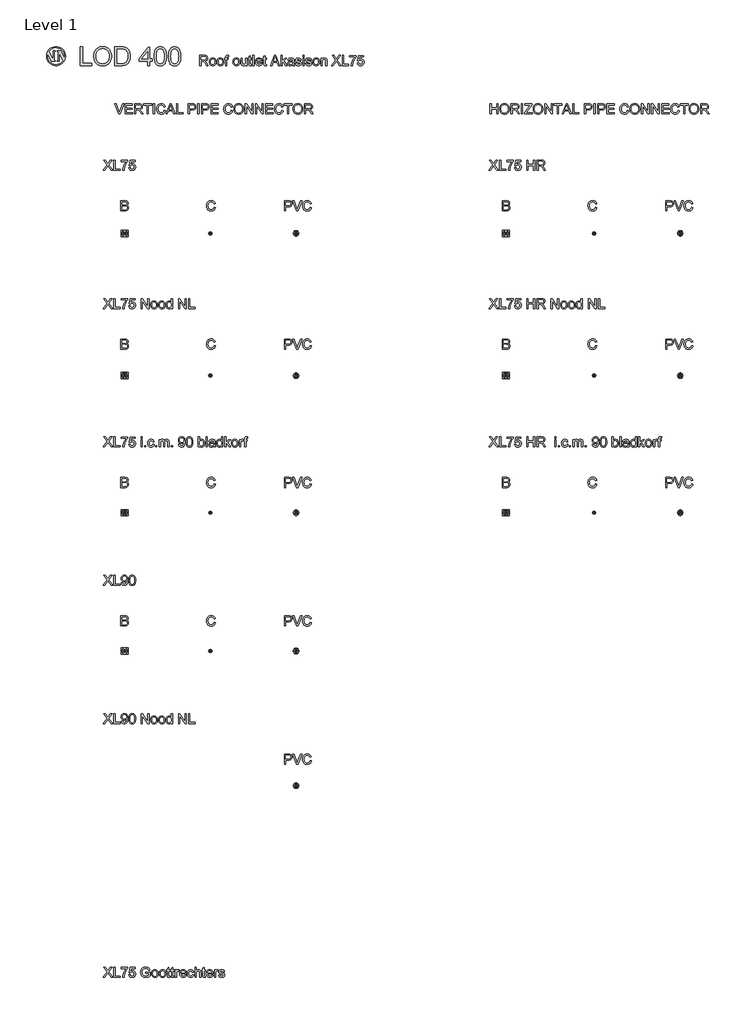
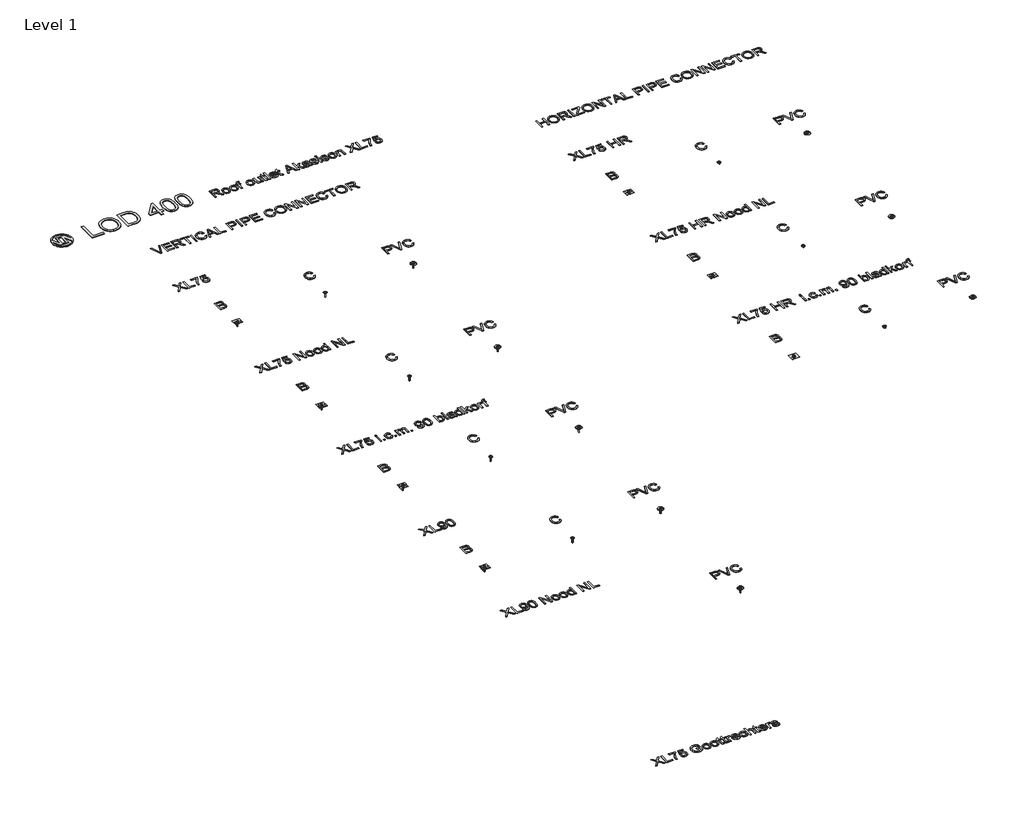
# One storey, incomplete: 52 sanitary terminals, 34 proxies.
"""IFC4 building model written with IfcOpenShell, lengths in millimetres."""

from ifc_helpers import new_model, si_unit, origin, place, context, project, spatial, transform, mapped, element, save
from components import proxy_000_00_isr_lod_packages_lod200_d244b15a, proxy_000_00_isr_lod_packages_1_lod200_2dca5619, proxy_000_00_isr_lod_packages_1_lod200_c8bb9399, proxy_000_00_isr_lod_packages_1_lod200_1a16044f, proxy_000_00_isr_lod_packages_1_lod200_af263f32, proxy_000_00_isr_lod_packages_1_lod200_d827b4a2, proxy_000_00_isr_lod_packages_1_lod200_f037c82a, proxy_000_00_isr_lod_packages_1_lod200_a5e92c51, proxy_000_00_isr_lod_packages_1_lod200_caf191f5, proxy_000_00_isr_lod_packages_1_lod200_7e7a189d, proxy_000_00_isr_lod_packages_1_lod200_f1342aa7, proxy_000_00_isr_lod_packages_1_lod200_6f6d0563, proxy_000_00_isr_lod_packages_1_lod200_9d03e05b, proxy_000_00_isr_lod_packages_1_lod200_6910cb7c, proxy_000_00_isr_lod_packages_1_lod200_dfd39657, std_nested_ee38ed3e, std_nested_2a588846, std_nested_2f69c98b, std_nested_e9431c89, std_nested_5b9eb732, std_nested_7d8345e2, std_nested_79037b13

model = new_model("IFC4")

# Units and contexts
model_context = context("Model", 3, world=origin())
ifc_project = project(units=[si_unit("LENGTHUNIT", "METRE", prefix="MILLI")], contexts=[model_context])

# Site, building, storey
site = spatial("IfcSite", under=ifc_project)
building = spatial("IfcBuilding", under=site)
storey = spatial("IfcBuildingStorey", under=building, Name="Level 1", Elevation=0.0)

# Proxies
placement = place(None, origin())
proxy_000_00_isr_lod_packages_lod200_shape = proxy_000_00_isr_lod_packages_lod200_d244b15a(model_context)
element("IfcBuildingElementProxy", 1, Name="000_00_ISR_lod_packages : LOD200", ObjectType="000_00_ISR_lod_packages : LOD200", at=placement, inside=storey, context=model_context, shape_type="MappedRepresentation", body=[
    mapped(proxy_000_00_isr_lod_packages_lod200_shape, transform((-42932.9644039, 94533.7464485, 0.0), x_axis=(1.0000000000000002, 0.0, 0.0), y_axis=(0.0, 1.0000000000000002, 0.0), z_axis=(0.0, 0.0, 1.0))),
])
proxy_000_00_isr_lod_packages_1_lod200_shape = proxy_000_00_isr_lod_packages_1_lod200_2dca5619(model_context)
element("IfcBuildingElementProxy", 2, Name="000_00_ISR_lod_packages_1 : LOD200", ObjectType="000_00_ISR_lod_packages_1 : LOD200", at=placement, inside=storey, context=model_context, shape_type="MappedRepresentation", body=[
    mapped(proxy_000_00_isr_lod_packages_1_lod200_shape, transform((-37555.6817777, 90714.9157229, 0.0), x_axis=(1.0000000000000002, 0.0, 0.0), y_axis=(0.0, 1.0000000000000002, 0.0), z_axis=(0.0, 0.0, 1.0))),
])
proxy_000_00_isr_lod_packages_1_lod200_2_shape = proxy_000_00_isr_lod_packages_1_lod200_c8bb9399(model_context)
element("IfcBuildingElementProxy", 3, Name="000_00_ISR_lod_packages_1 : LOD200", ObjectType="000_00_ISR_lod_packages_1 : LOD200", at=placement, inside=storey, context=model_context, shape_type="MappedRepresentation", body=[
    mapped(proxy_000_00_isr_lod_packages_1_lod200_2_shape, transform((-8022.3076072, 90714.9157229, 0.0), x_axis=(1.0000000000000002, 0.0, 0.0), y_axis=(0.0, 1.0000000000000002, 0.0), z_axis=(0.0, 0.0, 1.0))),
])
proxy_000_00_isr_lod_packages_1_lod200_3_shape = proxy_000_00_isr_lod_packages_1_lod200_1a16044f(model_context)
element("IfcBuildingElementProxy", 4, Name="000_00_ISR_lod_packages_1 : LOD200", ObjectType="000_00_ISR_lod_packages_1 : LOD200", at=placement, inside=storey, context=model_context, shape_type="MappedRepresentation", body=[
    mapped(proxy_000_00_isr_lod_packages_1_lod200_3_shape, transform((-38455.6817777, 86275.2736855, 0.0), x_axis=(1.0000000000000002, 0.0, 0.0), y_axis=(0.0, 1.0000000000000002, 0.0), z_axis=(0.0, 0.0, 1.0))),
])
proxy_000_00_isr_lod_packages_1_lod200_4_shape = proxy_000_00_isr_lod_packages_1_lod200_af263f32(model_context)
element("IfcBuildingElementProxy", 5, Name="000_00_ISR_lod_packages_1 : LOD200", ObjectType="000_00_ISR_lod_packages_1 : LOD200", at=placement, inside=storey, context=model_context, shape_type="MappedRepresentation", body=[
    mapped(proxy_000_00_isr_lod_packages_1_lod200_4_shape, transform((-8022.3076072, 86275.2736855, 0.0), x_axis=(1.0000000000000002, 0.0, 0.0), y_axis=(0.0, 1.0000000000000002, 0.0), z_axis=(0.0, 0.0, 1.0))),
])
proxy_000_00_isr_lod_packages_1_lod200_5_shape = proxy_000_00_isr_lod_packages_1_lod200_d827b4a2(model_context)
element("IfcBuildingElementProxy", 6, Name="000_00_ISR_lod_packages_1 : LOD200", ObjectType="000_00_ISR_lod_packages_1 : LOD200", at=placement, inside=storey, context=model_context, shape_type="MappedRepresentation", body=[
    mapped(proxy_000_00_isr_lod_packages_1_lod200_5_shape, transform((-37155.6817777, 83075.2736855, 0.0), x_axis=(1.0000000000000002, 0.0, 0.0), y_axis=(0.0, 1.0000000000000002, 0.0), z_axis=(0.0, 0.0, 1.0))),
])
element("IfcBuildingElementProxy", 7, Name="000_00_ISR_lod_packages_1 : LOD200", ObjectType="000_00_ISR_lod_packages_1 : LOD200", at=placement, inside=storey, context=model_context, shape_type="MappedRepresentation", body=[
    mapped(proxy_000_00_isr_lod_packages_1_lod200_5_shape, transform((-7055.6817777, 83075.2736855, 0.0), x_axis=(1.0000000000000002, 0.0, 0.0), y_axis=(0.0, 1.0000000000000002, 0.0), z_axis=(0.0, 0.0, 1.0))),
])
element("IfcBuildingElementProxy", 8, Name="000_00_ISR_lod_packages_1 : LOD200", ObjectType="000_00_ISR_lod_packages_1 : LOD200", at=placement, inside=storey, context=model_context, shape_type="MappedRepresentation", body=[
    mapped(proxy_000_00_isr_lod_packages_1_lod200_5_shape, transform((-37155.6817777, 72165.8106293, 0.0), x_axis=(1.0000000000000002, 0.0, 0.0), y_axis=(0.0, 1.0000000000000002, 0.0), z_axis=(0.0, 0.0, 1.0))),
])
element("IfcBuildingElementProxy", 9, Name="000_00_ISR_lod_packages_1 : LOD200", ObjectType="000_00_ISR_lod_packages_1 : LOD200", at=placement, inside=storey, context=model_context, shape_type="MappedRepresentation", body=[
    mapped(proxy_000_00_isr_lod_packages_1_lod200_5_shape, transform((-7055.6817777, 72165.8106293, 0.0), x_axis=(1.0000000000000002, 0.0, 0.0), y_axis=(0.0, 1.0000000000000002, 0.0), z_axis=(0.0, 0.0, 1.0))),
])
element("IfcBuildingElementProxy", 10, Name="000_00_ISR_lod_packages_1 : LOD200", ObjectType="000_00_ISR_lod_packages_1 : LOD200", at=placement, inside=storey, context=model_context, shape_type="MappedRepresentation", body=[
    mapped(proxy_000_00_isr_lod_packages_1_lod200_5_shape, transform((-37155.6817777, 61256.3475731, 0.0), x_axis=(1.0000000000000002, 0.0, 0.0), y_axis=(0.0, 1.0000000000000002, 0.0), z_axis=(0.0, 0.0, 1.0))),
])
element("IfcBuildingElementProxy", 11, Name="000_00_ISR_lod_packages_1 : LOD200", ObjectType="000_00_ISR_lod_packages_1 : LOD200", at=placement, inside=storey, context=model_context, shape_type="MappedRepresentation", body=[
    mapped(proxy_000_00_isr_lod_packages_1_lod200_5_shape, transform((-7055.6817777, 61256.3475731, 0.0), x_axis=(1.0000000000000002, 0.0, 0.0), y_axis=(0.0, 1.0000000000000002, 0.0), z_axis=(0.0, 0.0, 1.0))),
])
element("IfcBuildingElementProxy", 12, Name="000_00_ISR_lod_packages_1 : LOD200", ObjectType="000_00_ISR_lod_packages_1 : LOD200", at=placement, inside=storey, context=model_context, shape_type="MappedRepresentation", body=[
    mapped(proxy_000_00_isr_lod_packages_1_lod200_5_shape, transform((-37155.6817777, 50346.8845169, 0.0), x_axis=(1.0000000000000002, 0.0, 0.0), y_axis=(0.0, 1.0000000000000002, 0.0), z_axis=(0.0, 0.0, 1.0))),
])
proxy_000_00_isr_lod_packages_1_lod200_6_shape = proxy_000_00_isr_lod_packages_1_lod200_f037c82a(model_context)
element("IfcBuildingElementProxy", 13, Name="000_00_ISR_lod_packages_1 : LOD200", ObjectType="000_00_ISR_lod_packages_1 : LOD200", at=placement, inside=storey, context=model_context, shape_type="MappedRepresentation", body=[
    mapped(proxy_000_00_isr_lod_packages_1_lod200_6_shape, transform((-24255.6817777, 83075.2736855, 0.0), x_axis=(1.0000000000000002, 0.0, 0.0), y_axis=(0.0, 1.0000000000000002, 0.0), z_axis=(0.0, 0.0, 1.0))),
])
element("IfcBuildingElementProxy", 14, Name="000_00_ISR_lod_packages_1 : LOD200", ObjectType="000_00_ISR_lod_packages_1 : LOD200", at=placement, inside=storey, context=model_context, shape_type="MappedRepresentation", body=[
    mapped(proxy_000_00_isr_lod_packages_1_lod200_6_shape, transform((5844.3182223, 83075.2736855, 0.0), x_axis=(1.0000000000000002, 0.0, 0.0), y_axis=(0.0, 1.0000000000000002, 0.0), z_axis=(0.0, 0.0, 1.0))),
])
element("IfcBuildingElementProxy", 15, Name="000_00_ISR_lod_packages_1 : LOD200", ObjectType="000_00_ISR_lod_packages_1 : LOD200", at=placement, inside=storey, context=model_context, shape_type="MappedRepresentation", body=[
    mapped(proxy_000_00_isr_lod_packages_1_lod200_6_shape, transform((-24255.6817777, 72165.8106293, 0.0), x_axis=(1.0000000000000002, 0.0, 0.0), y_axis=(0.0, 1.0000000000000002, 0.0), z_axis=(0.0, 0.0, 1.0))),
])
element("IfcBuildingElementProxy", 16, Name="000_00_ISR_lod_packages_1 : LOD200", ObjectType="000_00_ISR_lod_packages_1 : LOD200", at=placement, inside=storey, context=model_context, shape_type="MappedRepresentation", body=[
    mapped(proxy_000_00_isr_lod_packages_1_lod200_6_shape, transform((5844.3182223, 72165.8106293, 0.0), x_axis=(1.0000000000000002, 0.0, 0.0), y_axis=(0.0, 1.0000000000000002, 0.0), z_axis=(0.0, 0.0, 1.0))),
])
element("IfcBuildingElementProxy", 17, Name="000_00_ISR_lod_packages_1 : LOD200", ObjectType="000_00_ISR_lod_packages_1 : LOD200", at=placement, inside=storey, context=model_context, shape_type="MappedRepresentation", body=[
    mapped(proxy_000_00_isr_lod_packages_1_lod200_6_shape, transform((-24255.6817777, 61256.3475731, 0.0), x_axis=(1.0000000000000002, 0.0, 0.0), y_axis=(0.0, 1.0000000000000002, 0.0), z_axis=(0.0, 0.0, 1.0))),
])
element("IfcBuildingElementProxy", 18, Name="000_00_ISR_lod_packages_1 : LOD200", ObjectType="000_00_ISR_lod_packages_1 : LOD200", at=placement, inside=storey, context=model_context, shape_type="MappedRepresentation", body=[
    mapped(proxy_000_00_isr_lod_packages_1_lod200_6_shape, transform((5844.3182223, 61256.3475731, 0.0), x_axis=(1.0000000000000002, 0.0, 0.0), y_axis=(0.0, 1.0000000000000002, 0.0), z_axis=(0.0, 0.0, 1.0))),
])
element("IfcBuildingElementProxy", 19, Name="000_00_ISR_lod_packages_1 : LOD200", ObjectType="000_00_ISR_lod_packages_1 : LOD200", at=placement, inside=storey, context=model_context, shape_type="MappedRepresentation", body=[
    mapped(proxy_000_00_isr_lod_packages_1_lod200_6_shape, transform((-24255.6817777, 50346.8845169, 0.0), x_axis=(1.0000000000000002, 0.0, 0.0), y_axis=(0.0, 1.0000000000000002, 0.0), z_axis=(0.0, 0.0, 1.0))),
])
element("IfcBuildingElementProxy", 20, Name="000_00_ISR_lod_packages_1 : LOD200", ObjectType="000_00_ISR_lod_packages_1 : LOD200", at=placement, inside=storey, context=model_context, shape_type="MappedRepresentation", body=[
    mapped(proxy_000_00_isr_lod_packages_1_lod200_6_shape, transform((-24255.6817777, 39437.4214606, 0.0), x_axis=(1.0000000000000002, 0.0, 0.0), y_axis=(0.0, 1.0000000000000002, 0.0), z_axis=(0.0, 0.0, 1.0))),
])
proxy_000_00_isr_lod_packages_1_lod200_7_shape = proxy_000_00_isr_lod_packages_1_lod200_a5e92c51(model_context)
element("IfcBuildingElementProxy", 21, Name="000_00_ISR_lod_packages_1 : LOD200", ObjectType="000_00_ISR_lod_packages_1 : LOD200", at=placement, inside=storey, context=model_context, shape_type="MappedRepresentation", body=[
    mapped(proxy_000_00_isr_lod_packages_1_lod200_7_shape, transform((-30355.6817777, 83075.2736855, 0.0), x_axis=(1.0000000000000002, 0.0, 0.0), y_axis=(0.0, 1.0000000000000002, 0.0), z_axis=(0.0, 0.0, 1.0))),
])
element("IfcBuildingElementProxy", 22, Name="000_00_ISR_lod_packages_1 : LOD200", ObjectType="000_00_ISR_lod_packages_1 : LOD200", at=placement, inside=storey, context=model_context, shape_type="MappedRepresentation", body=[
    mapped(proxy_000_00_isr_lod_packages_1_lod200_7_shape, transform((-255.6817777, 83075.2736855, 0.0), x_axis=(1.0000000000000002, 0.0, 0.0), y_axis=(0.0, 1.0000000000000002, 0.0), z_axis=(0.0, 0.0, 1.0))),
])
element("IfcBuildingElementProxy", 23, Name="000_00_ISR_lod_packages_1 : LOD200", ObjectType="000_00_ISR_lod_packages_1 : LOD200", at=placement, inside=storey, context=model_context, shape_type="MappedRepresentation", body=[
    mapped(proxy_000_00_isr_lod_packages_1_lod200_7_shape, transform((-30355.6817777, 72165.8106293, 0.0), x_axis=(1.0000000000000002, 0.0, 0.0), y_axis=(0.0, 1.0000000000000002, 0.0), z_axis=(0.0, 0.0, 1.0))),
])
element("IfcBuildingElementProxy", 24, Name="000_00_ISR_lod_packages_1 : LOD200", ObjectType="000_00_ISR_lod_packages_1 : LOD200", at=placement, inside=storey, context=model_context, shape_type="MappedRepresentation", body=[
    mapped(proxy_000_00_isr_lod_packages_1_lod200_7_shape, transform((-255.6817777, 72165.8106293, 0.0), x_axis=(1.0000000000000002, 0.0, 0.0), y_axis=(0.0, 1.0000000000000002, 0.0), z_axis=(0.0, 0.0, 1.0))),
])
element("IfcBuildingElementProxy", 25, Name="000_00_ISR_lod_packages_1 : LOD200", ObjectType="000_00_ISR_lod_packages_1 : LOD200", at=placement, inside=storey, context=model_context, shape_type="MappedRepresentation", body=[
    mapped(proxy_000_00_isr_lod_packages_1_lod200_7_shape, transform((-30355.6817777, 61256.3475731, 0.0), x_axis=(1.0000000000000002, 0.0, 0.0), y_axis=(0.0, 1.0000000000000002, 0.0), z_axis=(0.0, 0.0, 1.0))),
])
element("IfcBuildingElementProxy", 26, Name="000_00_ISR_lod_packages_1 : LOD200", ObjectType="000_00_ISR_lod_packages_1 : LOD200", at=placement, inside=storey, context=model_context, shape_type="MappedRepresentation", body=[
    mapped(proxy_000_00_isr_lod_packages_1_lod200_7_shape, transform((-255.6817777, 61256.3475731, 0.0), x_axis=(1.0000000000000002, 0.0, 0.0), y_axis=(0.0, 1.0000000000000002, 0.0), z_axis=(0.0, 0.0, 1.0))),
])
element("IfcBuildingElementProxy", 27, Name="000_00_ISR_lod_packages_1 : LOD200", ObjectType="000_00_ISR_lod_packages_1 : LOD200", at=placement, inside=storey, context=model_context, shape_type="MappedRepresentation", body=[
    mapped(proxy_000_00_isr_lod_packages_1_lod200_7_shape, transform((-30355.6817777, 50346.8845169, 0.0), x_axis=(1.0000000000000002, 0.0, 0.0), y_axis=(0.0, 1.0000000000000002, 0.0), z_axis=(0.0, 0.0, 1.0))),
])
proxy_000_00_isr_lod_packages_1_lod200_8_shape = proxy_000_00_isr_lod_packages_1_lod200_caf191f5(model_context)
element("IfcBuildingElementProxy", 28, Name="000_00_ISR_lod_packages_1 : LOD200", ObjectType="000_00_ISR_lod_packages_1 : LOD200", at=placement, inside=storey, context=model_context, shape_type="MappedRepresentation", body=[
    mapped(proxy_000_00_isr_lod_packages_1_lod200_8_shape, transform((-38455.6817777, 75365.8106293, 0.0), x_axis=(1.0000000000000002, 0.0, 0.0), y_axis=(0.0, 1.0000000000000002, 0.0), z_axis=(0.0, 0.0, 1.0))),
])
proxy_000_00_isr_lod_packages_1_lod200_9_shape = proxy_000_00_isr_lod_packages_1_lod200_7e7a189d(model_context)
element("IfcBuildingElementProxy", 29, Name="000_00_ISR_lod_packages_1 : LOD200", ObjectType="000_00_ISR_lod_packages_1 : LOD200", at=placement, inside=storey, context=model_context, shape_type="MappedRepresentation", body=[
    mapped(proxy_000_00_isr_lod_packages_1_lod200_9_shape, transform((-8022.3076072, 75365.8106293, 0.0), x_axis=(1.0000000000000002, 0.0, 0.0), y_axis=(0.0, 1.0000000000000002, 0.0), z_axis=(0.0, 0.0, 1.0))),
])
proxy_000_00_isr_lod_packages_1_lod200_10_shape = proxy_000_00_isr_lod_packages_1_lod200_f1342aa7(model_context)
element("IfcBuildingElementProxy", 30, Name="000_00_ISR_lod_packages_1 : LOD200", ObjectType="000_00_ISR_lod_packages_1 : LOD200", at=placement, inside=storey, context=model_context, shape_type="MappedRepresentation", body=[
    mapped(proxy_000_00_isr_lod_packages_1_lod200_10_shape, transform((-38455.6817777, 64456.3475731, 0.0), x_axis=(1.0000000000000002, 0.0, 0.0), y_axis=(0.0, 1.0000000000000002, 0.0), z_axis=(0.0, 0.0, 1.0))),
])
proxy_000_00_isr_lod_packages_1_lod200_11_shape = proxy_000_00_isr_lod_packages_1_lod200_6f6d0563(model_context)
element("IfcBuildingElementProxy", 31, Name="000_00_ISR_lod_packages_1 : LOD200", ObjectType="000_00_ISR_lod_packages_1 : LOD200", at=placement, inside=storey, context=model_context, shape_type="MappedRepresentation", body=[
    mapped(proxy_000_00_isr_lod_packages_1_lod200_11_shape, transform((-8022.3076072, 64456.3475731, 0.0), x_axis=(1.0000000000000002, 0.0, 0.0), y_axis=(0.0, 1.0000000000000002, 0.0), z_axis=(0.0, 0.0, 1.0))),
])
proxy_000_00_isr_lod_packages_1_lod200_12_shape = proxy_000_00_isr_lod_packages_1_lod200_9d03e05b(model_context)
element("IfcBuildingElementProxy", 32, Name="000_00_ISR_lod_packages_1 : LOD200", ObjectType="000_00_ISR_lod_packages_1 : LOD200", at=placement, inside=storey, context=model_context, shape_type="MappedRepresentation", body=[
    mapped(proxy_000_00_isr_lod_packages_1_lod200_12_shape, transform((-38455.6817777, 53546.8845169, 0.0), x_axis=(1.0000000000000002, 0.0, 0.0), y_axis=(0.0, 1.0000000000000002, 0.0), z_axis=(0.0, 0.0, 1.0))),
])
proxy_000_00_isr_lod_packages_1_lod200_13_shape = proxy_000_00_isr_lod_packages_1_lod200_6910cb7c(model_context)
element("IfcBuildingElementProxy", 33, Name="000_00_ISR_lod_packages_1 : LOD200", ObjectType="000_00_ISR_lod_packages_1 : LOD200", at=placement, inside=storey, context=model_context, shape_type="MappedRepresentation", body=[
    mapped(proxy_000_00_isr_lod_packages_1_lod200_13_shape, transform((-38455.6817777, 42637.4214606, 0.0), x_axis=(1.0000000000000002, 0.0, 0.0), y_axis=(0.0, 1.0000000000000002, 0.0), z_axis=(0.0, 0.0, 1.0))),
])
proxy_000_00_isr_lod_packages_1_lod200_14_shape = proxy_000_00_isr_lod_packages_1_lod200_dfd39657(model_context)
element("IfcBuildingElementProxy", 34, Name="000_00_ISR_lod_packages_1 : LOD200", ObjectType="000_00_ISR_lod_packages_1 : LOD200", at=placement, inside=storey, context=model_context, shape_type="MappedRepresentation", body=[
    mapped(proxy_000_00_isr_lod_packages_1_lod200_14_shape, transform((-38455.6817777, 22637.4214606, 0.0), x_axis=(1.0000000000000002, 0.0, 0.0), y_axis=(0.0, 1.0000000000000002, 0.0), z_axis=(0.0, 0.0, 1.0))),
])

# Sanitary terminals
std_nested_shape = std_nested_ee38ed3e(model_context)
element("IfcSanitaryTerminal", 35, ObjectType="NLRS_50_PF_AV_Akasison Daktrechter XL90 C_Akatherm : Akasison Daktrechter XL90 C", at=placement, inside=storey, context=model_context, shape_type="MappedRepresentation", body=[
    mapped(std_nested_shape, transform((-29503.0104781, 48865.7152425, 0.0), x_axis=(1.0, 0.0, 0.0), y_axis=(0.0, 1.0, 0.0), z_axis=(0.0, 0.0, 1.0))),
])
std_nested_2_shape = std_nested_2a588846(model_context)
element("IfcSanitaryTerminal", 36, ObjectType="Akasison vertical pipe connector_SH_Akatherm : std (nested)", at=placement, inside=storey, context=model_context, shape_type="MappedRepresentation", body=[
    mapped(std_nested_2_shape, transform((-36267.5975094, 81796.4440009, -1.0), x_axis=(1.0, 0.0, 0.0), y_axis=(0.0, 1.0, 0.0), z_axis=(0.0, 0.0, 1.0))),
])
element("IfcSanitaryTerminal", 37, ObjectType="Akasison vertical pipe connector_SH_Akatherm : std (nested)", at=placement, inside=storey, context=model_context, shape_type="MappedRepresentation", body=[
    mapped(std_nested_2_shape, transform((-29503.0104781, 81796.4440009, 0.0), x_axis=(1.0, 0.0, 0.0), y_axis=(0.0, 1.0, 0.0), z_axis=(0.0, 0.0, 1.0))),
])
element("IfcSanitaryTerminal", 38, ObjectType="Akasison vertical pipe connector_SH_Akatherm : std (nested)", at=placement, inside=storey, context=model_context, shape_type="MappedRepresentation", body=[
    mapped(std_nested_2_shape, transform((-22732.9644039, 81796.4440009, -1.0119196), x_axis=(1.0, 0.0, 0.0), y_axis=(0.0, 1.0, 0.0), z_axis=(0.0, 0.0, 1.0))),
])
element("IfcSanitaryTerminal", 39, ObjectType="Akasison vertical pipe connector_SH_Akatherm : std (nested)", at=placement, inside=storey, context=model_context, shape_type="MappedRepresentation", body=[
    mapped(std_nested_2_shape, transform((-36267.5975094, 70584.6413549, -1.0), x_axis=(1.0, 0.0, 0.0), y_axis=(0.0, 1.0, 0.0), z_axis=(0.0, 0.0, 1.0))),
])
element("IfcSanitaryTerminal", 40, ObjectType="Akasison vertical pipe connector_SH_Akatherm : std (nested)", at=placement, inside=storey, context=model_context, shape_type="MappedRepresentation", body=[
    mapped(std_nested_2_shape, transform((-29503.0104781, 70584.6413549, 0.0), x_axis=(1.0, 0.0, 0.0), y_axis=(0.0, 1.0, 0.0), z_axis=(0.0, 0.0, 1.0))),
])
element("IfcSanitaryTerminal", 41, ObjectType="Akasison vertical pipe connector_SH_Akatherm : std (nested)", at=placement, inside=storey, context=model_context, shape_type="MappedRepresentation", body=[
    mapped(std_nested_2_shape, transform((-22732.9644039, 70584.6413549, -1.0119196), x_axis=(1.0, 0.0, 0.0), y_axis=(0.0, 1.0, 0.0), z_axis=(0.0, 0.0, 1.0))),
])
element("IfcSanitaryTerminal", 42, ObjectType="Akasison vertical pipe connector_SH_Akatherm : std (nested)", at=placement, inside=storey, context=model_context, shape_type="MappedRepresentation", body=[
    mapped(std_nested_2_shape, transform((-36267.5975094, 59775.1782987, -1.0), x_axis=(1.0, 0.0, 0.0), y_axis=(0.0, 1.0, 0.0), z_axis=(0.0, 0.0, 1.0))),
])
element("IfcSanitaryTerminal", 43, ObjectType="Akasison vertical pipe connector_SH_Akatherm : std (nested)", at=placement, inside=storey, context=model_context, shape_type="MappedRepresentation", body=[
    mapped(std_nested_2_shape, transform((-29503.0104781, 59775.1782987, 0.0), x_axis=(1.0, 0.0, 0.0), y_axis=(0.0, 1.0, 0.0), z_axis=(0.0, 0.0, 1.0))),
])
element("IfcSanitaryTerminal", 44, ObjectType="Akasison vertical pipe connector_SH_Akatherm : std (nested)", at=placement, inside=storey, context=model_context, shape_type="MappedRepresentation", body=[
    mapped(std_nested_2_shape, transform((-22732.9644039, 59775.1782987, -1.0119196), x_axis=(1.0, 0.0, 0.0), y_axis=(0.0, 1.0, 0.0), z_axis=(0.0, 0.0, 1.0))),
])
std_nested_3_shape = std_nested_2f69c98b(model_context)
element("IfcSanitaryTerminal", 45, ObjectType="RSen_50_PF_WPB_Akasison clamp flange seal EPDM_Akatherm : std (nested)", at=placement, inside=storey, context=model_context, shape_type="MappedRepresentation", body=[
    mapped(std_nested_3_shape, transform((-29503.0104781, 81796.4440009, 0.0), x_axis=(1.0, 0.0, 0.0), y_axis=(0.0, 1.0, 0.0), z_axis=(0.0, 0.0, 1.0))),
])
element("IfcSanitaryTerminal", 46, ObjectType="RSen_50_PF_WPB_Akasison clamp flange seal EPDM_Akatherm : std (nested)", at=placement, inside=storey, context=model_context, shape_type="MappedRepresentation", body=[
    mapped(std_nested_3_shape, transform((767.0355961, 81796.4440009, 0.0), x_axis=(1.0, 0.0, 0.0), y_axis=(0.0, 1.0, 0.0), z_axis=(0.0, 0.0, 1.0))),
])
element("IfcSanitaryTerminal", 47, ObjectType="RSen_50_PF_WPB_Akasison clamp flange seal EPDM_Akatherm : std (nested)", at=placement, inside=storey, context=model_context, shape_type="MappedRepresentation", body=[
    mapped(std_nested_3_shape, transform((-29503.0104781, 70584.6413549, 0.0), x_axis=(1.0, 0.0, 0.0), y_axis=(0.0, 1.0, 0.0), z_axis=(0.0, 0.0, 1.0))),
])
element("IfcSanitaryTerminal", 48, ObjectType="RSen_50_PF_WPB_Akasison clamp flange seal EPDM_Akatherm : std (nested)", at=placement, inside=storey, context=model_context, shape_type="MappedRepresentation", body=[
    mapped(std_nested_3_shape, transform((767.0355961, 70584.6413549, 0.0), x_axis=(1.0, 0.0, 0.0), y_axis=(0.0, 1.0, 0.0), z_axis=(0.0, 0.0, 1.0))),
])
element("IfcSanitaryTerminal", 49, ObjectType="RSen_50_PF_WPB_Akasison clamp flange seal EPDM_Akatherm : std (nested)", at=placement, inside=storey, context=model_context, shape_type="MappedRepresentation", body=[
    mapped(std_nested_3_shape, transform((-29503.0104781, 59775.1782987, 0.0), x_axis=(1.0, 0.0, 0.0), y_axis=(0.0, 1.0, 0.0), z_axis=(0.0, 0.0, 1.0))),
])
element("IfcSanitaryTerminal", 50, ObjectType="RSen_50_PF_WPB_Akasison clamp flange seal EPDM_Akatherm : std (nested)", at=placement, inside=storey, context=model_context, shape_type="MappedRepresentation", body=[
    mapped(std_nested_3_shape, transform((767.0355961, 59775.1782987, 0.0), x_axis=(1.0, 0.0, 0.0), y_axis=(0.0, 1.0, 0.0), z_axis=(0.0, 0.0, 1.0))),
])
element("IfcSanitaryTerminal", 51, ObjectType="RSen_50_PF_WPB_Akasison clamp flange seal EPDM_Akatherm : std (nested)", at=placement, inside=storey, context=model_context, shape_type="MappedRepresentation", body=[
    mapped(std_nested_3_shape, transform((-29503.0104781, 48865.7152425, 0.0), x_axis=(1.0, 0.0, 0.0), y_axis=(0.0, 1.0, 0.0), z_axis=(0.0, 0.0, 1.0))),
])
std_nested_4_shape = std_nested_e9431c89(model_context)
element("IfcSanitaryTerminal", 52, ObjectType="RSen_50_PF_AV_Akasison vertical pipe connector 90_SH_Akatherm : std (nested)", at=placement, inside=storey, context=model_context, shape_type="MappedRepresentation", body=[
    mapped(std_nested_4_shape, transform((-36267.5975094, 48865.7152425, -6.0), x_axis=(1.0, 0.0, 0.0), y_axis=(0.0, 1.0, 0.0), z_axis=(0.0, 0.0, 1.0))),
])
element("IfcSanitaryTerminal", 53, ObjectType="RSen_50_PF_AV_Akasison vertical pipe connector 90_SH_Akatherm : std (nested)", at=placement, inside=storey, context=model_context, shape_type="MappedRepresentation", body=[
    mapped(std_nested_4_shape, transform((-29503.0104781, 48865.7152425, -6.0), x_axis=(1.0, 0.0, 0.0), y_axis=(0.0, 1.0, 0.0), z_axis=(0.0, 0.0, 1.0))),
])
element("IfcSanitaryTerminal", 54, ObjectType="RSen_50_PF_AV_Akasison vertical pipe connector 90_SH_Akatherm : std (nested)", at=placement, inside=storey, context=model_context, shape_type="MappedRepresentation", body=[
    mapped(std_nested_4_shape, transform((-22732.9644039, 48865.7152425, -6.0), x_axis=(1.0, 0.0, 0.0), y_axis=(0.0, 1.0, 0.0), z_axis=(0.0, 0.0, 1.0))),
])
element("IfcSanitaryTerminal", 55, ObjectType="RSen_50_PF_AV_Akasison vertical pipe connector 90_SH_Akatherm : std (nested)", at=placement, inside=storey, context=model_context, shape_type="MappedRepresentation", body=[
    mapped(std_nested_4_shape, transform((-22732.9644039, 38256.2521863, -6.0), x_axis=(1.0, 0.0, 0.0), y_axis=(0.0, 1.0, 0.0), z_axis=(0.0, 0.0, 1.0))),
])
std_nested_5_shape = std_nested_5b9eb732(model_context)
element("IfcSanitaryTerminal", 56, ObjectType="Akasison horizontal pipe connector_SH_Akatherm : std (nested)", at=placement, inside=storey, context=model_context, shape_type="MappedRepresentation", body=[
    mapped(std_nested_5_shape, transform((-6180.0376824, 81796.4440009, -1.0), x_axis=(1.0, 0.0, 0.0), y_axis=(0.0, 1.0, 0.0), z_axis=(0.0, 0.0, 1.0))),
])
element("IfcSanitaryTerminal", 57, ObjectType="Akasison horizontal pipe connector_SH_Akatherm : std (nested)", at=placement, inside=storey, context=model_context, shape_type="MappedRepresentation", body=[
    mapped(std_nested_5_shape, transform((767.0355961, 81796.4440009, 0.0), x_axis=(1.0, 0.0, 0.0), y_axis=(0.0, 1.0, 0.0), z_axis=(0.0, 0.0, 1.0))),
])
element("IfcSanitaryTerminal", 58, ObjectType="Akasison horizontal pipe connector_SH_Akatherm : std (nested)", at=placement, inside=storey, context=model_context, shape_type="MappedRepresentation", body=[
    mapped(std_nested_5_shape, transform((7567.0355961, 81796.4440009, -1.0119196), x_axis=(1.0, 0.0, 0.0), y_axis=(0.0, 1.0, 0.0), z_axis=(0.0, 0.0, 1.0))),
])
element("IfcSanitaryTerminal", 59, ObjectType="Akasison horizontal pipe connector_SH_Akatherm : std (nested)", at=placement, inside=storey, context=model_context, shape_type="MappedRepresentation", body=[
    mapped(std_nested_5_shape, transform((-6180.0376824, 70584.6413549, -1.0), x_axis=(1.0, 0.0, 0.0), y_axis=(0.0, 1.0, 0.0), z_axis=(0.0, 0.0, 1.0))),
])
element("IfcSanitaryTerminal", 60, ObjectType="Akasison horizontal pipe connector_SH_Akatherm : std (nested)", at=placement, inside=storey, context=model_context, shape_type="MappedRepresentation", body=[
    mapped(std_nested_5_shape, transform((767.0355961, 70584.6413549, 0.0), x_axis=(1.0, 0.0, 0.0), y_axis=(0.0, 1.0, 0.0), z_axis=(0.0, 0.0, 1.0))),
])
element("IfcSanitaryTerminal", 61, ObjectType="Akasison horizontal pipe connector_SH_Akatherm : std (nested)", at=placement, inside=storey, context=model_context, shape_type="MappedRepresentation", body=[
    mapped(std_nested_5_shape, transform((7567.0355961, 70584.6413549, -1.0119196), x_axis=(1.0, 0.0, 0.0), y_axis=(0.0, 1.0, 0.0), z_axis=(0.0, 0.0, 1.0))),
])
element("IfcSanitaryTerminal", 62, ObjectType="Akasison horizontal pipe connector_SH_Akatherm : std (nested)", at=placement, inside=storey, context=model_context, shape_type="MappedRepresentation", body=[
    mapped(std_nested_5_shape, transform((-6180.0376824, 59775.1782987, -1.0), x_axis=(1.0, 0.0, 0.0), y_axis=(0.0, 1.0, 0.0), z_axis=(0.0, 0.0, 1.0))),
])
element("IfcSanitaryTerminal", 63, ObjectType="Akasison horizontal pipe connector_SH_Akatherm : std (nested)", at=placement, inside=storey, context=model_context, shape_type="MappedRepresentation", body=[
    mapped(std_nested_5_shape, transform((767.0355961, 59775.1782987, 0.0), x_axis=(1.0, 0.0, 0.0), y_axis=(0.0, 1.0, 0.0), z_axis=(0.0, 0.0, 1.0))),
])
element("IfcSanitaryTerminal", 64, ObjectType="Akasison horizontal pipe connector_SH_Akatherm : std (nested)", at=placement, inside=storey, context=model_context, shape_type="MappedRepresentation", body=[
    mapped(std_nested_5_shape, transform((7567.0355961, 59775.1782987, -1.0119196), x_axis=(1.0, 0.0, 0.0), y_axis=(0.0, 1.0, 0.0), z_axis=(0.0, 0.0, 1.0))),
])
element("IfcSanitaryTerminal", 65, ObjectType="NLRS_50_PF_AV_Akasison Daktrechter XL75 C Base Outlet_Akatherm : std (nested)", at=placement, inside=storey, context=model_context, shape_type="MappedRepresentation", body=[
    mapped(std_nested_shape, transform((-29503.0104781, 81796.4440009, 0.0), x_axis=(1.0, 0.0, 0.0), y_axis=(0.0, 1.0, 0.0), z_axis=(0.0, 0.0, 1.0))),
])
element("IfcSanitaryTerminal", 66, ObjectType="NLRS_50_PF_AV_Akasison Daktrechter XL75 C Base Outlet_Akatherm : std (nested)", at=placement, inside=storey, context=model_context, shape_type="MappedRepresentation", body=[
    mapped(std_nested_shape, transform((-29503.0104781, 70584.6413549, 0.0), x_axis=(1.0, 0.0, 0.0), y_axis=(0.0, 1.0, 0.0), z_axis=(0.0, 0.0, 1.0))),
])
element("IfcSanitaryTerminal", 67, ObjectType="NLRS_50_PF_AV_Akasison Daktrechter XL75 C Base Outlet_Akatherm : std (nested)", at=placement, inside=storey, context=model_context, shape_type="MappedRepresentation", body=[
    mapped(std_nested_shape, transform((-29503.0104781, 59775.1782987, 0.0), x_axis=(1.0, 0.0, 0.0), y_axis=(0.0, 1.0, 0.0), z_axis=(0.0, 0.0, 1.0))),
])
std_nested_6_shape = std_nested_7d8345e2(model_context)
element("IfcSanitaryTerminal", 68, ObjectType="NLRS_50_PF_AV_Akasison Daktrechter XL75 B Base Outlet_Akatherm : std (nested)", at=placement, inside=storey, context=model_context, shape_type="MappedRepresentation", body=[
    mapped(std_nested_6_shape, transform((-36267.5975094, 81796.4440009, 0.0), x_axis=(1.0, 0.0, 0.0), y_axis=(0.0, 1.0, 0.0), z_axis=(0.0, 0.0, 1.0))),
])
element("IfcSanitaryTerminal", 69, ObjectType="NLRS_50_PF_AV_Akasison Daktrechter XL75 B Base Outlet_Akatherm : std (nested)", at=placement, inside=storey, context=model_context, shape_type="MappedRepresentation", body=[
    mapped(std_nested_6_shape, transform((-36267.5975094, 70584.6413549, 0.0), x_axis=(1.0, 0.0, 0.0), y_axis=(0.0, 1.0, 0.0), z_axis=(0.0, 0.0, 1.0))),
])
element("IfcSanitaryTerminal", 70, ObjectType="NLRS_50_PF_AV_Akasison Daktrechter XL75 B Base Outlet_Akatherm : std (nested)", at=placement, inside=storey, context=model_context, shape_type="MappedRepresentation", body=[
    mapped(std_nested_6_shape, transform((-36267.5975094, 59775.1782987, 0.0), x_axis=(1.0, 0.0, 0.0), y_axis=(0.0, 1.0, 0.0), z_axis=(0.0, 0.0, 1.0))),
])
std_nested_7_shape = std_nested_79037b13(model_context)
element("IfcSanitaryTerminal", 71, ObjectType="NLRS_50_PF_AV_Akasison Daktrechter XL90 PVC Base Outlet_Akatherm : std (nested)", at=placement, inside=storey, context=model_context, shape_type="MappedRepresentation", body=[
    mapped(std_nested_7_shape, transform((-22732.9644039, 48865.7152425, 0.0), x_axis=(1.0, 0.0, 0.0), y_axis=(0.0, 1.0, 0.0), z_axis=(0.0, 0.0, 1.0))),
])
element("IfcSanitaryTerminal", 72, ObjectType="NLRS_50_PF_AV_Akasison Daktrechter XL90 PVC Base Outlet_Akatherm : std (nested)", at=placement, inside=storey, context=model_context, shape_type="MappedRepresentation", body=[
    mapped(std_nested_7_shape, transform((-22732.9644039, 38256.2521863, 0.0), x_axis=(1.0, 0.0, 0.0), y_axis=(0.0, 1.0, 0.0), z_axis=(0.0, 0.0, 1.0))),
])
element("IfcSanitaryTerminal", 73, ObjectType="NLRS_50_PF_AV_Akasison Daktrechter XL90 C Base Outlet_Akatherm : std (nested)", at=placement, inside=storey, context=model_context, shape_type="MappedRepresentation", body=[
    mapped(std_nested_shape, transform((-29503.0104781, 48865.7152425, 0.0), x_axis=(1.0, 0.0, 0.0), y_axis=(0.0, 1.0, 0.0), z_axis=(0.0, 0.0, 1.0))),
])
element("IfcSanitaryTerminal", 74, ObjectType="NLRS_50_PF_AV_Akasison Daktrechter XL90 B Base Outlet_Akatherm : std (nested)", at=placement, inside=storey, context=model_context, shape_type="MappedRepresentation", body=[
    mapped(std_nested_6_shape, transform((-36267.5975094, 48865.7152425, 0.0), x_axis=(1.0, 0.0, 0.0), y_axis=(0.0, 1.0, 0.0), z_axis=(0.0, 0.0, 1.0))),
])
element("IfcSanitaryTerminal", 75, ObjectType="NLRS_50_PF_AV_Akasison Daktrechter XL75 PVC Base Outlet_Akatherm : std (nested)", at=placement, inside=storey, context=model_context, shape_type="MappedRepresentation", body=[
    mapped(std_nested_7_shape, transform((-22732.9644039, 81796.4440009, 0.0), x_axis=(1.0, 0.0, 0.0), y_axis=(0.0, 1.0, 0.0), z_axis=(0.0, 0.0, 1.0))),
])
element("IfcSanitaryTerminal", 76, ObjectType="NLRS_50_PF_AV_Akasison Daktrechter XL75 PVC Base Outlet_Akatherm : std (nested)", at=placement, inside=storey, context=model_context, shape_type="MappedRepresentation", body=[
    mapped(std_nested_7_shape, transform((-22732.9644039, 70584.6413549, 0.0), x_axis=(1.0, 0.0, 0.0), y_axis=(0.0, 1.0, 0.0), z_axis=(0.0, 0.0, 1.0))),
])
element("IfcSanitaryTerminal", 77, ObjectType="NLRS_50_PF_AV_Akasison Daktrechter XL75 PVC Base Outlet_Akatherm : std (nested)", at=placement, inside=storey, context=model_context, shape_type="MappedRepresentation", body=[
    mapped(std_nested_7_shape, transform((-22732.9644039, 59775.1782987, 0.0), x_axis=(1.0, 0.0, 0.0), y_axis=(0.0, 1.0, 0.0), z_axis=(0.0, 0.0, 1.0))),
])
element("IfcSanitaryTerminal", 78, ObjectType="NLRS_50_PF_AV_Akasison Daktrechter XL75 HR B Base Outlet_Akatherm : std (nested)", at=placement, inside=storey, context=model_context, shape_type="MappedRepresentation", body=[
    mapped(std_nested_6_shape, transform((-6180.0376824, 81796.4440009, 0.0), x_axis=(1.0, 0.0, 0.0), y_axis=(0.0, 1.0, 0.0), z_axis=(0.0, 0.0, 1.0))),
])
element("IfcSanitaryTerminal", 79, ObjectType="NLRS_50_PF_AV_Akasison Daktrechter XL75 HR B Base Outlet_Akatherm : std (nested)", at=placement, inside=storey, context=model_context, shape_type="MappedRepresentation", body=[
    mapped(std_nested_6_shape, transform((-6180.0376824, 70584.6413549, 0.0), x_axis=(1.0, 0.0, 0.0), y_axis=(0.0, 1.0, 0.0), z_axis=(0.0, 0.0, 1.0))),
])
element("IfcSanitaryTerminal", 80, ObjectType="NLRS_50_PF_AV_Akasison Daktrechter XL75 HR B Base Outlet_Akatherm : std (nested)", at=placement, inside=storey, context=model_context, shape_type="MappedRepresentation", body=[
    mapped(std_nested_6_shape, transform((-6180.0376824, 59775.1782987, 0.0), x_axis=(1.0, 0.0, 0.0), y_axis=(0.0, 1.0, 0.0), z_axis=(0.0, 0.0, 1.0))),
])
element("IfcSanitaryTerminal", 81, ObjectType="NLRS_50_PF_AV_Akasison Daktrechter XL75 HR C Base Outlet_Akatherm : std (nested)", at=placement, inside=storey, context=model_context, shape_type="MappedRepresentation", body=[
    mapped(std_nested_shape, transform((767.0355961, 81796.4440009, 0.0), x_axis=(1.0, 0.0, 0.0), y_axis=(0.0, 1.0, 0.0), z_axis=(0.0, 0.0, 1.0))),
])
element("IfcSanitaryTerminal", 82, ObjectType="NLRS_50_PF_AV_Akasison Daktrechter XL75 HR C Base Outlet_Akatherm : std (nested)", at=placement, inside=storey, context=model_context, shape_type="MappedRepresentation", body=[
    mapped(std_nested_shape, transform((767.0355961, 70584.6413549, 0.0), x_axis=(1.0, 0.0, 0.0), y_axis=(0.0, 1.0, 0.0), z_axis=(0.0, 0.0, 1.0))),
])
element("IfcSanitaryTerminal", 83, ObjectType="NLRS_50_PF_AV_Akasison Daktrechter XL75 HR C Base Outlet_Akatherm : std (nested)", at=placement, inside=storey, context=model_context, shape_type="MappedRepresentation", body=[
    mapped(std_nested_shape, transform((767.0355961, 59775.1782987, 0.0), x_axis=(1.0, 0.0, 0.0), y_axis=(0.0, 1.0, 0.0), z_axis=(0.0, 0.0, 1.0))),
])
element("IfcSanitaryTerminal", 84, ObjectType="NLRS_50_PF_AV_Akasison Daktrechter XL75 HR PVC Base Outlet_Akatherm : std (nested)", at=placement, inside=storey, context=model_context, shape_type="MappedRepresentation", body=[
    mapped(std_nested_7_shape, transform((7567.0355961, 81796.4440009, 0.0), x_axis=(1.0, 0.0, 0.0), y_axis=(0.0, 1.0, 0.0), z_axis=(0.0, 0.0, 1.0))),
])
element("IfcSanitaryTerminal", 85, ObjectType="NLRS_50_PF_AV_Akasison Daktrechter XL75 HR PVC Base Outlet_Akatherm : std (nested)", at=placement, inside=storey, context=model_context, shape_type="MappedRepresentation", body=[
    mapped(std_nested_7_shape, transform((7567.0355961, 70584.6413549, 0.0), x_axis=(1.0, 0.0, 0.0), y_axis=(0.0, 1.0, 0.0), z_axis=(0.0, 0.0, 1.0))),
])
element("IfcSanitaryTerminal", 86, ObjectType="NLRS_50_PF_AV_Akasison Daktrechter XL75 HR PVC Base Outlet_Akatherm : std (nested)", at=placement, inside=storey, context=model_context, shape_type="MappedRepresentation", body=[
    mapped(std_nested_7_shape, transform((7567.0355961, 59775.1782987, 0.0), x_axis=(1.0, 0.0, 0.0), y_axis=(0.0, 1.0, 0.0), z_axis=(0.0, 0.0, 1.0))),
])

save(model, "model.ifc")
